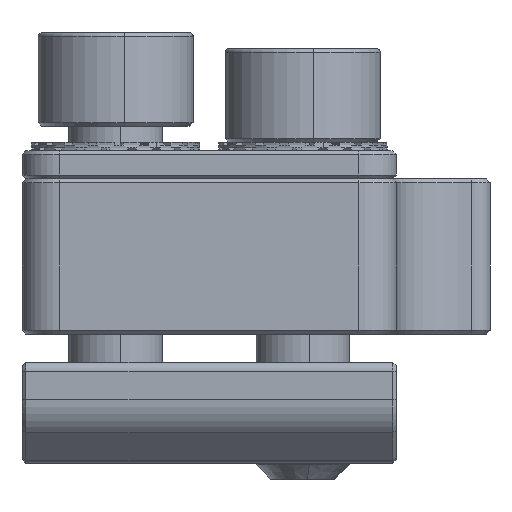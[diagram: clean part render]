
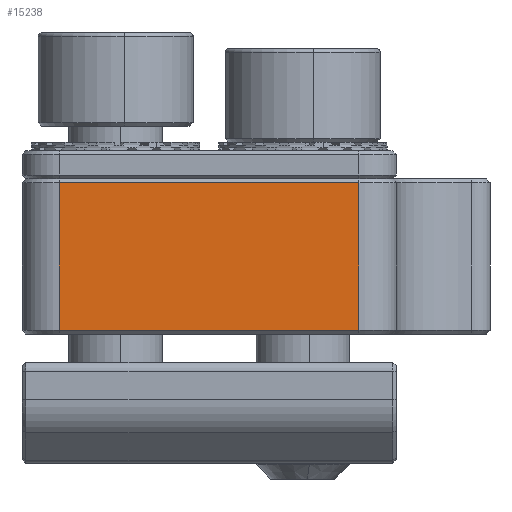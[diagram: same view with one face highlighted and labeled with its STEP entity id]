
A CAD part, left-side view. The second image highlights one B-rep face of the part: STEP entity #15238.
In plain terms, the highlighted planar face has unit normal (-1, 0, 0).
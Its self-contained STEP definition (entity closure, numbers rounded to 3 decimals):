
#373 = VERTEX_POINT ( 'NONE', #21533 ) ;
#381 = ORIENTED_EDGE ( 'NONE', *, *, #12720, .F. ) ;
#490 = EDGE_CURVE ( 'NONE', #373, #8464, #9276, .T. ) ;
#616 = CARTESIAN_POINT ( 'NONE',  ( -75., 8., 4.15 ) ) ;
#3129 = EDGE_CURVE ( 'NONE', #8464, #3402, #18629, .T. ) ;
#3402 = VERTEX_POINT ( 'NONE', #19329 ) ;
#3578 = EDGE_LOOP ( 'NONE', ( #6104, #20689, #381, #21843 ) ) ;
#4462 = VECTOR ( 'NONE', #20298, 1000. ) ;
#5558 = VECTOR ( 'NONE', #8075, 1000. ) ;
#6092 = FACE_OUTER_BOUND ( 'NONE', #3578, .T. ) ;
#6104 = ORIENTED_EDGE ( 'NONE', *, *, #490, .T. ) ;
#7860 = DIRECTION ( 'NONE',  ( 0., 0., -1. ) ) ;
#8075 = DIRECTION ( 'NONE',  ( 0., 0., -1. ) ) ;
#8229 = DIRECTION ( 'NONE',  ( 0., 1., 0. ) ) ;
#8464 = VERTEX_POINT ( 'NONE', #18579 ) ;
#8783 = EDGE_CURVE ( 'NONE', #22709, #373, #16055, .T. ) ;
#9276 = LINE ( 'NONE', #11304, #15471 ) ;
#9718 = CARTESIAN_POINT ( 'NONE',  ( -75., -8., -3.95 ) ) ;
#9855 = CARTESIAN_POINT ( 'NONE',  ( -75., -8., 4.15 ) ) ;
#11304 = CARTESIAN_POINT ( 'NONE',  ( -75., 8., 4.15 ) ) ;
#11628 = LINE ( 'NONE', #9855, #5558 ) ;
#12720 = EDGE_CURVE ( 'NONE', #22709, #3402, #11628, .T. ) ;
#12981 = CARTESIAN_POINT ( 'NONE',  ( -75., -8., 3.95 ) ) ;
#15238 = ADVANCED_FACE ( 'NONE', ( #6092 ), #16898, .F. ) ;
#15471 = VECTOR ( 'NONE', #7860, 1000. ) ;
#16055 = LINE ( 'NONE', #23328, #20503 ) ;
#16898 = PLANE ( 'NONE',  #20907 ) ;
#18579 = CARTESIAN_POINT ( 'NONE',  ( -75., 8., -3.95 ) ) ;
#18629 = LINE ( 'NONE', #9718, #4462 ) ;
#19142 = DIRECTION ( 'NONE',  ( 1., 0., 0. ) ) ;
#19329 = CARTESIAN_POINT ( 'NONE',  ( -75., -8., -3.95 ) ) ;
#20298 = DIRECTION ( 'NONE',  ( 0., -1., 0. ) ) ;
#20503 = VECTOR ( 'NONE', #22975, 1000. ) ;
#20689 = ORIENTED_EDGE ( 'NONE', *, *, #3129, .T. ) ;
#20907 = AXIS2_PLACEMENT_3D ( 'NONE', #616, #19142, #8229 ) ;
#21533 = CARTESIAN_POINT ( 'NONE',  ( -75., 8., 3.95 ) ) ;
#21843 = ORIENTED_EDGE ( 'NONE', *, *, #8783, .T. ) ;
#22709 = VERTEX_POINT ( 'NONE', #12981 ) ;
#22975 = DIRECTION ( 'NONE',  ( 0., 1., 0. ) ) ;
#23328 = CARTESIAN_POINT ( 'NONE',  ( -75., 8., 3.95 ) ) ;
